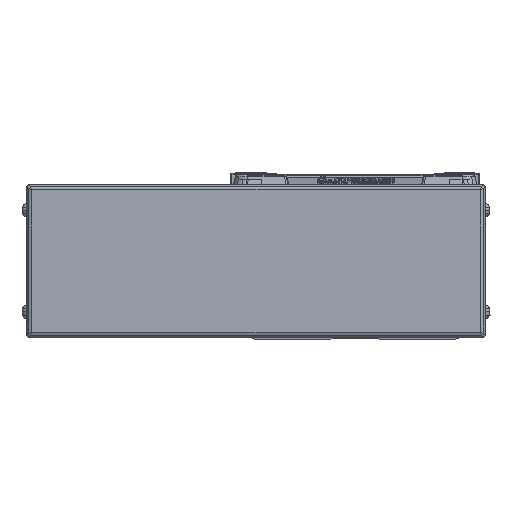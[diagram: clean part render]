
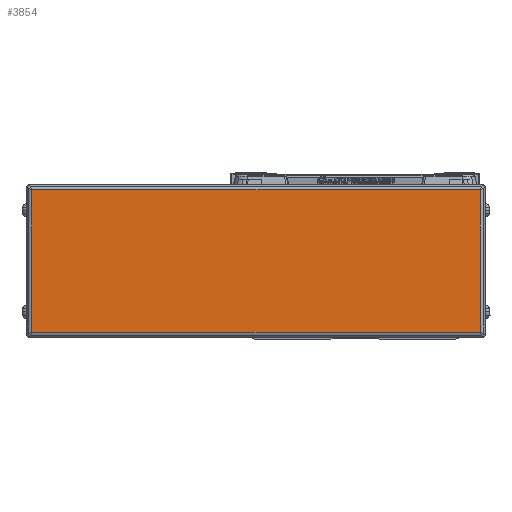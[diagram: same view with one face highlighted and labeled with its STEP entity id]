
A CAD part, left-side view. The second image highlights one B-rep face of the part: STEP entity #3854.
In plain terms, the highlighted planar face has unit normal (-1, 0, 0).
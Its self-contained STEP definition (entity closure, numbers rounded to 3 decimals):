
#3854=ADVANCED_FACE('',(#8872),#8873,.F.);
#8872=FACE_OUTER_BOUND('',#15639,.T.);
#8873=PLANE('',#15640);
#15639=EDGE_LOOP('',(#26737,#26738,#26739,#26740));
#15640=AXIS2_PLACEMENT_3D('',#26741,#26742,#26743);
#26737=ORIENTED_EDGE('',*,*,#40694,.T.);
#26738=ORIENTED_EDGE('',*,*,#42156,.T.);
#26739=ORIENTED_EDGE('',*,*,#42004,.T.);
#26740=ORIENTED_EDGE('',*,*,#41281,.T.);
#26741=CARTESIAN_POINT('',(-616.,39.,0.));
#26742=DIRECTION('',(1.0,0.,0.));
#26743=DIRECTION('',(0.,0.,1.0));
#40694=EDGE_CURVE('',#49602,#49244,#49603,.T.);
#41281=EDGE_CURVE('',#50553,#49602,#50554,.T.);
#42004=EDGE_CURVE('',#50281,#50553,#51663,.T.);
#42156=EDGE_CURVE('',#49244,#50281,#51916,.T.);
#49244=VERTEX_POINT('',#61182);
#49602=VERTEX_POINT('',#61702);
#49603=LINE('',#61703,#61704);
#50281=VERTEX_POINT('',#62609);
#50553=VERTEX_POINT('',#63109);
#50554=LINE('',#63110,#63111);
#51663=LINE('',#64681,#64682);
#51916=LINE('',#65022,#65023);
#61182=CARTESIAN_POINT('',(-616.,127.2,28.));
#61702=CARTESIAN_POINT('',(-616.,-49.2,28.));
#61703=CARTESIAN_POINT('',(-616.,39.,28.));
#61704=VECTOR('',#74197,10.0);
#62609=CARTESIAN_POINT('',(-616.0,127.2,-28.));
#63109=CARTESIAN_POINT('',(-616.,-49.2,-28.));
#63110=CARTESIAN_POINT('',(-616.,-49.2,0.));
#63111=VECTOR('',#74994,10.0);
#64681=CARTESIAN_POINT('',(-616.,39.,-28.));
#64682=VECTOR('',#75923,10.0);
#65022=CARTESIAN_POINT('',(-616.0,127.2,0.));
#65023=VECTOR('',#76158,10.0);
#74197=DIRECTION('',(0.,1.0,0.));
#74994=DIRECTION('',(0.,0.,1.0));
#75923=DIRECTION('',(0.,-1.0,0.));
#76158=DIRECTION('',(0.,0.,-1.0));
